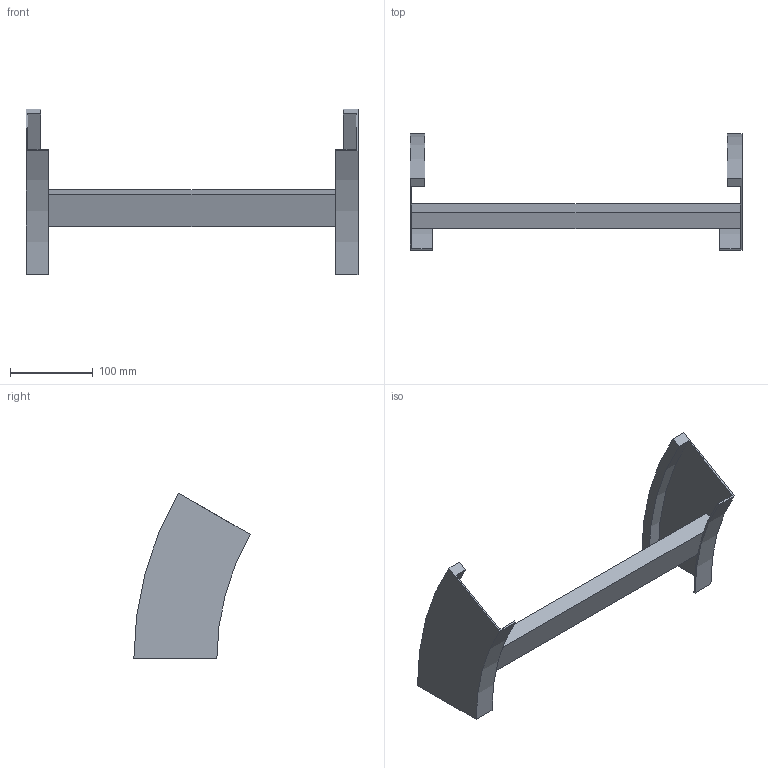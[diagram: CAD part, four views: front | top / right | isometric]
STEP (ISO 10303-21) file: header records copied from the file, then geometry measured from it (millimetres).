
FILE_DESCRIPTION (( 'STEP AP214' ), '1' );
FILE_NAME ('B2_35B3D400.step', '2025-02-21T14:46:50', ( '' ), ( '' ), 'SwSTEP 2.0', 'SolidWorks 2023', '' );
FILE_SCHEMA (( 'AUTOMOTIVE_DESIGN' ));
Length unit declared in the file: millimetre
Products named in the file (3): TRAVERSINO_400; B2_35B3D400; B2_LONGH.DISCESA_30°_H100_R300
Assembly tree (3 placements, depth 2):
  B2_35B3D400
    B2_LONGH.DISCESA_30°_H100_R300  x2
    TRAVERSINO_400
Bounding box: 400 x 140.19 x 200 mm (x, y, z)
Volume: 489042.6 mm3; surface area: 155037.3 mm2
Topology: 3 solids, 3 shells, 26 faces, 60 edges, 40 vertices
Faces by surface type: plane 18, cylinder 8
Entity records: 544 total; most frequent: DIRECTION 88, CARTESIAN_POINT 82, ORIENTED_EDGE 72, EDGE_CURVE 36, AXIS2_PLACEMENT_3D 30, VECTOR 28, LINE 28, VERTEX_POINT 24
